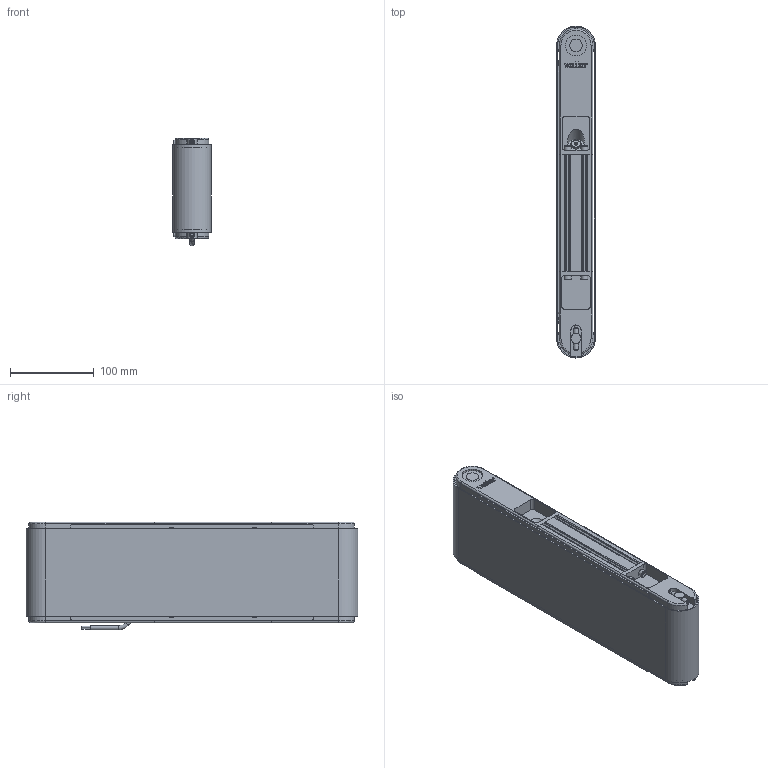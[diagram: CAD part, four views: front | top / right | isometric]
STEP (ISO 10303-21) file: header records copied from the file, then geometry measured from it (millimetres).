
FILE_DESCRIPTION(/* description */ (''),/* implementation_level */ '2;1');
FILE_NAME(/* name */ 'G:\DATEN\CAD\Förderband\Marketing\3D-Modelle (Standard)\FR-40-120\FR-40-120-350-K.stp',/* time_stamp */ '2019-05-08T08:28:02+02:00',/* author */ ('melanie.ochs'),/* organization */ (''),/* preprocessor_version */ 'ST-DEVELOPER v17',/* originating_system */ 'Autodesk Inventor 2019',/* authorisation */ '');
FILE_SCHEMA (('CONFIG_CONTROL_DESIGN'));
Length unit declared in the file: centimetre
Products named in the file (1): FR-40-120-350-K
Bounding box: 46.6 x 396.6 x 128.53 mm (x, y, z)
Volume: 1259984.3 mm3; surface area: 346149.8 mm2
Topology: 6 solids, 29 shells, 1033 faces, 2809 edges, 1878 vertices
Faces by surface type: plane 531, cylinder 285, bspline 122, cone 70, torus 25
Full cylindrical faces by diameter (mm): 2 x2, 4 x6, 4.3 x4, 4.64 x2, 4.917 x3, 5 x11, 5.5 x8, 6 x6, 6.5 x1, 6.647 x3, 8 x4, 8.3 x4, 8.5 x8, 8.773 x1, 10 x1, 11 x1, 12 x4, 15 x4, 20 x4, 25 x2, 28 x4
Entity records: 35166 total; most frequent: CARTESIAN_POINT 8354, ORIENTED_EDGE 5594, DIRECTION 5063, EDGE_CURVE 2797, VERTEX_POINT 1878, AXIS2_PLACEMENT_3D 1753, LINE 1557, VECTOR 1557
